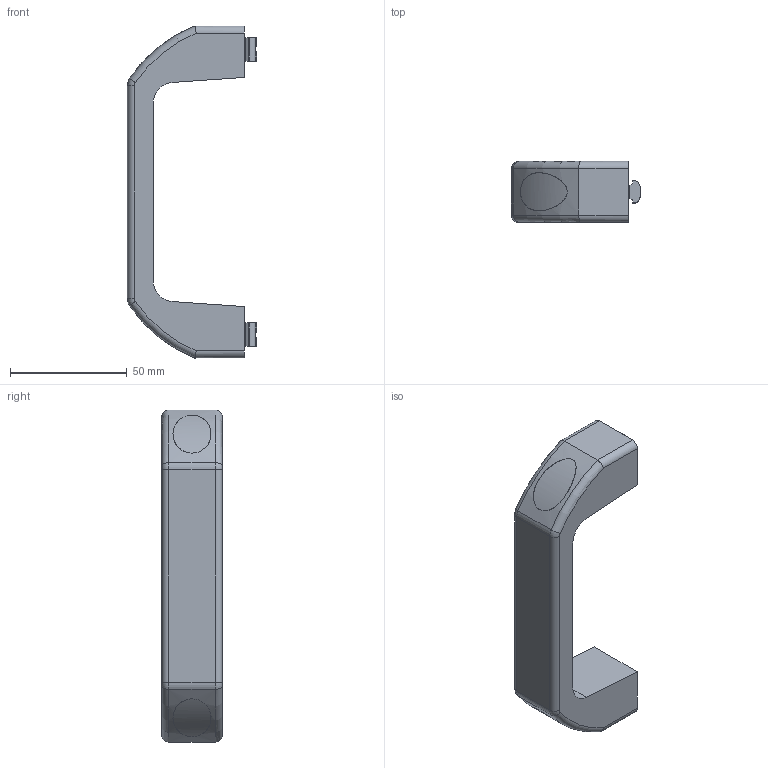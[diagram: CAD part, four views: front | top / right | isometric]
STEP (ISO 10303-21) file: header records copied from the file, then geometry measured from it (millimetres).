
FILE_DESCRIPTION(('STEP AP214'),'1');
FILE_NAME('HAPP-NF25.stp','2016-12-14T10:06:50',(' '),(' '),'Spatial InterOp 3D',' ',' ');
FILE_SCHEMA(('automotive_design'));
Length unit declared in the file: millimetre
Products named in the file (6): HAPP-NF25; HAPP; 蓋
Assembly tree (7 placements, depth 2):
  HAPP-NF25
    (unnamed)  x2
    HAPP
    蓋
    蓋
    (unnamed)  x2
Bounding box: 55.2 x 26 x 142 mm (x, y, z)
Volume: 67854 mm3; surface area: 22216.1 mm2
Topology: 7 solids, 7 shells, 172 faces, 436 edges, 282 vertices
Faces by surface type: plane 102, cylinder 52, cone 10, torus 8
Full cylindrical faces by diameter (mm): 5 x2, 5.1 x2
Entity records: 4569 total; most frequent: CARTESIAN_POINT 1248, DIRECTION 538, ORIENTED_EDGE 502, EDGE_CURVE 251, AXIS2_PLACEMENT_3D 189, VERTEX_POINT 167, LINE 160, VECTOR 160
